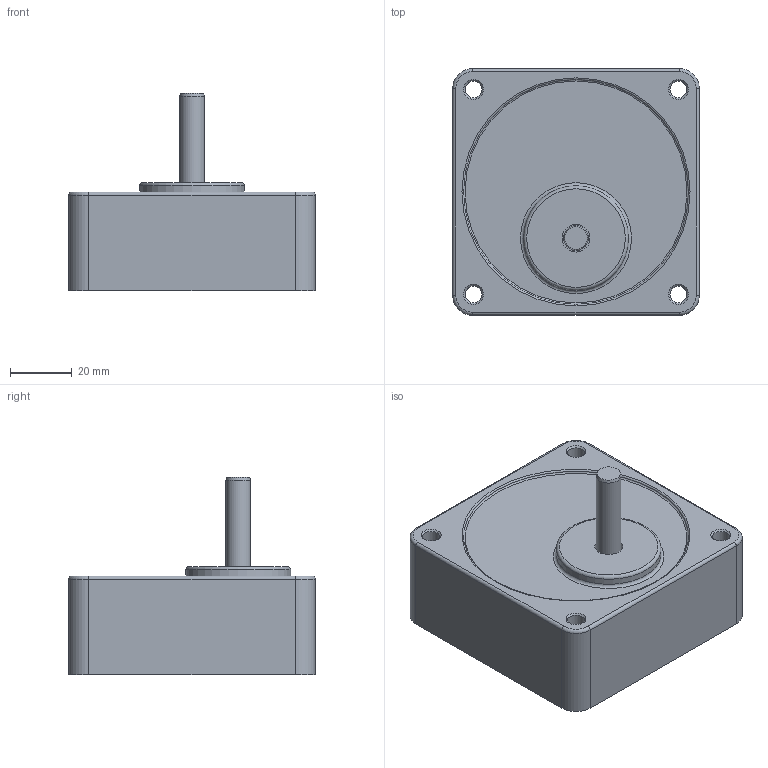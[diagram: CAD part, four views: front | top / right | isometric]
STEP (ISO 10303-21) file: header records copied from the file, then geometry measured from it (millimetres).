
FILE_DESCRIPTION((''),'2;1');
FILE_NAME('D:\미주향3D\GEAR HEAD\GEARHEAD\ㅁ80 25W\S8SA3~18.stp','2013-12-13T13:15:16',('leebh'),(''),'Autodesk Inventor 2011','Autodesk Inventor 2011','');
FILE_SCHEMA(('AUTOMOTIVE_DESIGN { 1 0 10303 214 1 1 1 1 }'));
Length unit declared in the file: millimetre
Products named in the file (1): 부품8
Bounding box: 80 x 80 x 64 mm (x, y, z)
Volume: 179740.4 mm3; surface area: 27381 mm2
Topology: 1 solids, 1 shells, 42 faces, 86 edges, 52 vertices
Faces by surface type: cylinder 17, plane 12, torus 8, cone 5
Full cylindrical faces by diameter (mm): 5.5 x4, 8 x2, 9 x1, 34 x1, 73 x1
Entity records: 1062 total; most frequent: DIRECTION 202, CARTESIAN_POINT 163, ORIENTED_EDGE 136, AXIS2_PLACEMENT_3D 91, EDGE_LOOP 74, EDGE_CURVE 68, VERTEX_POINT 52, CIRCLE 48
